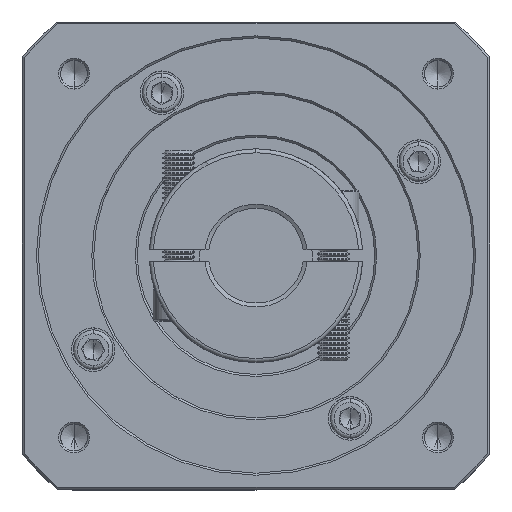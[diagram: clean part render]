
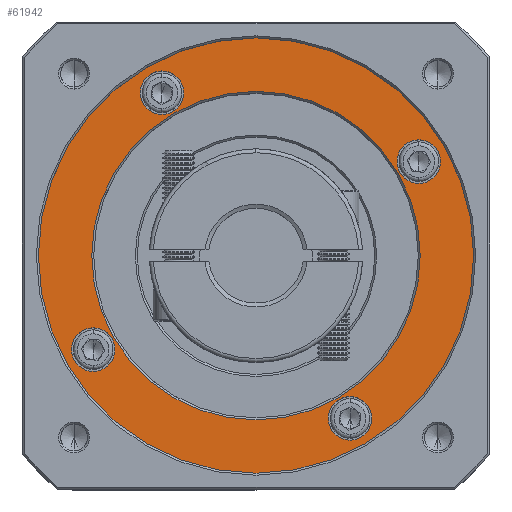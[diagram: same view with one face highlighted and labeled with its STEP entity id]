
A CAD part, top view. The second image highlights one B-rep face of the part: STEP entity #61942.
In plain terms, the highlighted planar face has unit normal (0, 0, 1).
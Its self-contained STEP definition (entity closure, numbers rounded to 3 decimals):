
#1895 = CARTESIAN_POINT ( 'NONE',  ( 93.818, 80.223, 0.694 ) ) ;
#2386 = DIRECTION ( 'NONE',  ( 0., 1., 0. ) ) ;
#5101 = CARTESIAN_POINT ( 'NONE',  ( 52.682, 61.973, 0.694 ) ) ;
#5286 = DIRECTION ( 'NONE',  ( 0., 1., 0. ) ) ;
#6271 = DIRECTION ( 'NONE',  ( 0., 0., -1. ) ) ;
#9077 = EDGE_CURVE ( 'NONE', #39888, #88470, #13337, .T. ) ;
#9451 = CARTESIAN_POINT ( 'NONE',  ( 11.182, 61.973, 0.694 ) ) ;
#11111 = AXIS2_PLACEMENT_3D ( 'NONE', #112601, #23236, #5286 ) ;
#11890 = DIRECTION ( 'NONE',  ( 0., 0., -1. ) ) ;
#11913 = CARTESIAN_POINT ( 'NONE',  ( 28.932, 108.61, 0.694 ) ) ;
#13238 = DIRECTION ( 'NONE',  ( 0., 1., 0. ) ) ;
#13337 = CIRCLE ( 'NONE', #23603, 5.5 ) ;
#14799 = CARTESIAN_POINT ( 'NONE',  ( 11.546, 38.223, 0.694 ) ) ;
#15257 = CIRCLE ( 'NONE', #87300, 5.5 ) ;
#17628 = ORIENTED_EDGE ( 'NONE', *, *, #25236, .T. ) ;
#18498 = CARTESIAN_POINT ( 'NONE',  ( 52.682, 116.973, 0.694 ) ) ;
#21610 = CARTESIAN_POINT ( 'NONE',  ( 28.932, 103.11, 0.694 ) ) ;
#22200 = DIRECTION ( 'NONE',  ( 0., 1., 0. ) ) ;
#23236 = DIRECTION ( 'NONE',  ( 0., 0., 1. ) ) ;
#23603 = AXIS2_PLACEMENT_3D ( 'NONE', #21610, #81334, #71958 ) ;
#24809 = FACE_BOUND ( 'NONE', #60336, .T. ) ;
#24906 = EDGE_CURVE ( 'NONE', #101311, #26405, #44686, .T. ) ;
#25236 = EDGE_CURVE ( 'NONE', #76123, #86783, #87409, .T. ) ;
#25412 = DIRECTION ( 'NONE',  ( 0., 1., 0. ) ) ;
#26405 = VERTEX_POINT ( 'NONE', #124706 ) ;
#29004 = EDGE_CURVE ( 'NONE', #86783, #76123, #15257, .T. ) ;
#29026 = EDGE_CURVE ( 'NONE', #32439, #85878, #41152, .T. ) ;
#30701 = ORIENTED_EDGE ( 'NONE', *, *, #29026, .T. ) ;
#32268 = ORIENTED_EDGE ( 'NONE', *, *, #117148, .T. ) ;
#32439 = VERTEX_POINT ( 'NONE', #122165 ) ;
#33703 = CIRCLE ( 'NONE', #50241, 41.5 ) ;
#33779 = EDGE_LOOP ( 'NONE', ( #17628, #117967 ) ) ;
#38191 = DIRECTION ( 'NONE',  ( 0., 0., -1. ) ) ;
#39888 = VERTEX_POINT ( 'NONE', #11913 ) ;
#40330 = CIRCLE ( 'NONE', #121107, 41.5 ) ;
#41152 = CIRCLE ( 'NONE', #117727, 5.5 ) ;
#42120 = ORIENTED_EDGE ( 'NONE', *, *, #92376, .T. ) ;
#43466 = CARTESIAN_POINT ( 'NONE',  ( 76.432, 26.337, 0.694 ) ) ;
#43544 = DIRECTION ( 'NONE',  ( 0., 0., -1. ) ) ;
#44090 = PLANE ( 'NONE',  #11111 ) ;
#44686 = CIRCLE ( 'NONE', #72695, 55. ) ;
#48115 = DIRECTION ( 'NONE',  ( 0., 1., 0. ) ) ;
#50241 = AXIS2_PLACEMENT_3D ( 'NONE', #103789, #6271, #74648 ) ;
#50822 = FACE_OUTER_BOUND ( 'NONE', #63746, .T. ) ;
#52813 = EDGE_LOOP ( 'NONE', ( #76377, #32268 ) ) ;
#53217 = ORIENTED_EDGE ( 'NONE', *, *, #9077, .T. ) ;
#53291 = EDGE_CURVE ( 'NONE', #88470, #39888, #106578, .T. ) ;
#54925 = DIRECTION ( 'NONE',  ( 0., 1., 0. ) ) ;
#56115 = CIRCLE ( 'NONE', #111559, 55. ) ;
#58529 = FACE_BOUND ( 'NONE', #33779, .T. ) ;
#58584 = VERTEX_POINT ( 'NONE', #43466 ) ;
#58754 = DIRECTION ( 'NONE',  ( 0., 0., 1. ) ) ;
#60336 = EDGE_LOOP ( 'NONE', ( #98452, #118062 ) ) ;
#61685 = CIRCLE ( 'NONE', #119969, 5.5 ) ;
#61942 = ADVANCED_FACE ( 'NONE', ( #50822, #24809, #110617, #113647, #58529, #107563 ), #44090, .T. ) ;
#63072 = ORIENTED_EDGE ( 'NONE', *, *, #122308, .T. ) ;
#63746 = EDGE_LOOP ( 'NONE', ( #121370, #42120 ) ) ;
#65081 = VERTEX_POINT ( 'NONE', #66011 ) ;
#66011 = CARTESIAN_POINT ( 'NONE',  ( 76.432, 15.337, 0.694 ) ) ;
#68302 = EDGE_CURVE ( 'NONE', #58584, #65081, #61685, .T. ) ;
#71838 = CARTESIAN_POINT ( 'NONE',  ( 76.432, 20.837, 0.694 ) ) ;
#71958 = DIRECTION ( 'NONE',  ( 0., 1., 0. ) ) ;
#72130 = DIRECTION ( 'NONE',  ( 0., 0., -1. ) ) ;
#72257 = DIRECTION ( 'NONE',  ( 0., 1., 0. ) ) ;
#72695 = AXIS2_PLACEMENT_3D ( 'NONE', #84873, #95640, #54925 ) ;
#74648 = DIRECTION ( 'NONE',  ( 1., 0., 0. ) ) ;
#76123 = VERTEX_POINT ( 'NONE', #123719 ) ;
#76377 = ORIENTED_EDGE ( 'NONE', *, *, #68302, .T. ) ;
#80070 = DIRECTION ( 'NONE',  ( 0., 1., 0. ) ) ;
#81282 = DIRECTION ( 'NONE',  ( 0., 0., -1. ) ) ;
#81334 = DIRECTION ( 'NONE',  ( 0., 0., -1. ) ) ;
#82575 = AXIS2_PLACEMENT_3D ( 'NONE', #14799, #111816, #25412 ) ;
#84873 = CARTESIAN_POINT ( 'NONE',  ( 52.682, 61.973, 0.694 ) ) ;
#84932 = VERTEX_POINT ( 'NONE', #9451 ) ;
#85319 = VERTEX_POINT ( 'NONE', #93773 ) ;
#85878 = VERTEX_POINT ( 'NONE', #1895 ) ;
#86783 = VERTEX_POINT ( 'NONE', #91838 ) ;
#87300 = AXIS2_PLACEMENT_3D ( 'NONE', #120492, #72130, #13238 ) ;
#87399 = CARTESIAN_POINT ( 'NONE',  ( 76.432, 20.837, 0.694 ) ) ;
#87409 = CIRCLE ( 'NONE', #82575, 5.5 ) ;
#88470 = VERTEX_POINT ( 'NONE', #123413 ) ;
#89678 = CIRCLE ( 'NONE', #118346, 5.5 ) ;
#90972 = CARTESIAN_POINT ( 'NONE',  ( 93.818, 85.723, 0.694 ) ) ;
#91838 = CARTESIAN_POINT ( 'NONE',  ( 11.546, 32.723, 0.694 ) ) ;
#91882 = DIRECTION ( 'NONE',  ( 1., 0., 0. ) ) ;
#92376 = EDGE_CURVE ( 'NONE', #26405, #101311, #56115, .T. ) ;
#93773 = CARTESIAN_POINT ( 'NONE',  ( 94.182, 61.973, 0.694 ) ) ;
#95520 = EDGE_CURVE ( 'NONE', #84932, #85319, #33703, .T. ) ;
#95640 = DIRECTION ( 'NONE',  ( 0., 0., 1. ) ) ;
#97323 = CARTESIAN_POINT ( 'NONE',  ( 52.682, 61.973, 0.694 ) ) ;
#97779 = AXIS2_PLACEMENT_3D ( 'NONE', #99053, #11890, #2386 ) ;
#98452 = ORIENTED_EDGE ( 'NONE', *, *, #124410, .T. ) ;
#99053 = CARTESIAN_POINT ( 'NONE',  ( 28.932, 103.11, 0.694 ) ) ;
#101311 = VERTEX_POINT ( 'NONE', #18498 ) ;
#101781 = EDGE_LOOP ( 'NONE', ( #30701, #63072 ) ) ;
#103789 = CARTESIAN_POINT ( 'NONE',  ( 52.682, 61.973, 0.694 ) ) ;
#106578 = CIRCLE ( 'NONE', #97779, 5.5 ) ;
#106713 = DIRECTION ( 'NONE',  ( 0., 1., 0. ) ) ;
#107034 = CIRCLE ( 'NONE', #109345, 5.5 ) ;
#107563 = FACE_BOUND ( 'NONE', #52813, .T. ) ;
#109345 = AXIS2_PLACEMENT_3D ( 'NONE', #87399, #38191, #48115 ) ;
#110534 = ORIENTED_EDGE ( 'NONE', *, *, #53291, .T. ) ;
#110617 = FACE_BOUND ( 'NONE', #126584, .T. ) ;
#111559 = AXIS2_PLACEMENT_3D ( 'NONE', #97323, #58754, #106713 ) ;
#111816 = DIRECTION ( 'NONE',  ( 0., 0., -1. ) ) ;
#112601 = CARTESIAN_POINT ( 'NONE',  ( 52.682, 61.973, 0.694 ) ) ;
#113647 = FACE_BOUND ( 'NONE', #101781, .T. ) ;
#117148 = EDGE_CURVE ( 'NONE', #65081, #58584, #107034, .T. ) ;
#117727 = AXIS2_PLACEMENT_3D ( 'NONE', #90972, #121755, #22200 ) ;
#117967 = ORIENTED_EDGE ( 'NONE', *, *, #29004, .T. ) ;
#118062 = ORIENTED_EDGE ( 'NONE', *, *, #95520, .T. ) ;
#118346 = AXIS2_PLACEMENT_3D ( 'NONE', #120288, #81282, #80070 ) ;
#119969 = AXIS2_PLACEMENT_3D ( 'NONE', #71838, #43544, #72257 ) ;
#120288 = CARTESIAN_POINT ( 'NONE',  ( 93.818, 85.723, 0.694 ) ) ;
#120492 = CARTESIAN_POINT ( 'NONE',  ( 11.546, 38.223, 0.694 ) ) ;
#120977 = DIRECTION ( 'NONE',  ( 0., 0., -1. ) ) ;
#121107 = AXIS2_PLACEMENT_3D ( 'NONE', #5101, #120977, #91882 ) ;
#121370 = ORIENTED_EDGE ( 'NONE', *, *, #24906, .T. ) ;
#121755 = DIRECTION ( 'NONE',  ( 0., 0., -1. ) ) ;
#122165 = CARTESIAN_POINT ( 'NONE',  ( 93.818, 91.223, 0.694 ) ) ;
#122308 = EDGE_CURVE ( 'NONE', #85878, #32439, #89678, .T. ) ;
#123413 = CARTESIAN_POINT ( 'NONE',  ( 28.932, 97.61, 0.694 ) ) ;
#123719 = CARTESIAN_POINT ( 'NONE',  ( 11.546, 43.723, 0.694 ) ) ;
#124410 = EDGE_CURVE ( 'NONE', #85319, #84932, #40330, .T. ) ;
#124706 = CARTESIAN_POINT ( 'NONE',  ( 52.682, 6.973, 0.694 ) ) ;
#126584 = EDGE_LOOP ( 'NONE', ( #53217, #110534 ) ) ;
